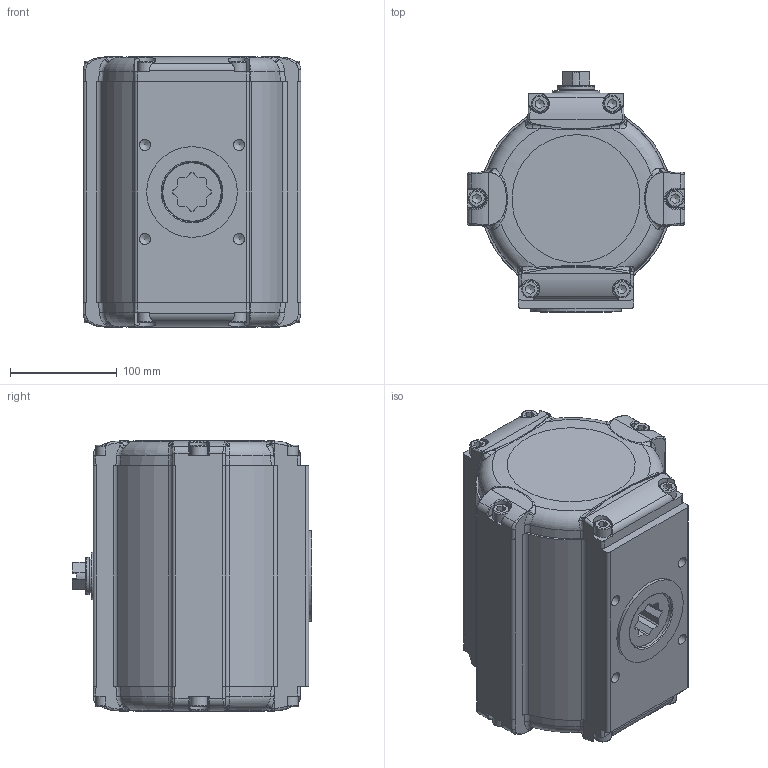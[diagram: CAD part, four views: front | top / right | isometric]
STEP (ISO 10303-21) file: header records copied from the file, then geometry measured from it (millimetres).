
FILE_DESCRIPTION((''),'2;1');
FILE_NAME('C:\Dokumente und Einstellungen\kir\Desktop\STEP IGES\SAD\SAD 33 BR03.stp','2006-12-19T10:03:41',('kir'),(''),'Autodesk Inventor 10','Autodesk Inventor 10','');
FILE_SCHEMA(('AUTOMOTIVE_DESIGN { 1 0 10303 214 1 1 1 1 }'));
Length unit declared in the file: millimetre
Products named in the file (1): ENG-039879
Bounding box: 204 x 225 x 253.2 mm (x, y, z)
Volume: 2103520.3 mm3; surface area: 457407.7 mm2
Topology: 26 solids, 26 shells, 888 faces, 2293 edges, 1466 vertices
Faces by surface type: plane 296, bspline 285, cylinder 193, cone 61, torus 53
Full cylindrical faces by diameter (mm): 8.376 x6, 10 x12, 10.5 x6, 16 x12, 26 x1, 30.8 x2, 31 x1, 32.5 x1, 34.8 x3, 35.1 x1, 36.5 x1, 40 x1, 45 x1, 50.9 x1, 51 x1, 55.8 x2, 85 x1, 168.206 x1, 168.775 x1
Entity records: 60686 total; most frequent: CARTESIAN_POINT 42280, ORIENTED_EDGE 3978, DIRECTION 3290, EDGE_CURVE 1989, AXIS2_PLACEMENT_3D 1349, VERTEX_POINT 1340, EDGE_LOOP 1128, FACE_OUTER_BOUND 888
